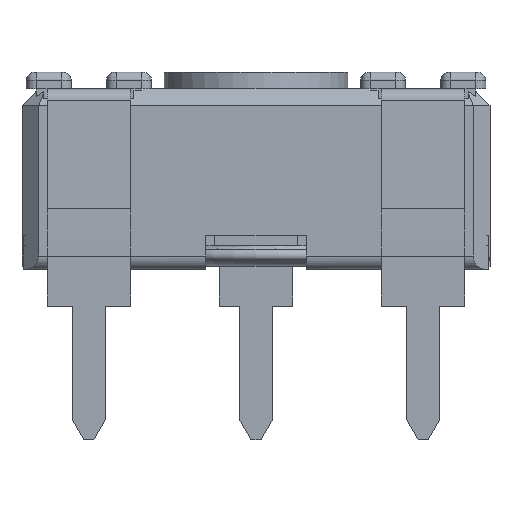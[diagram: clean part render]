
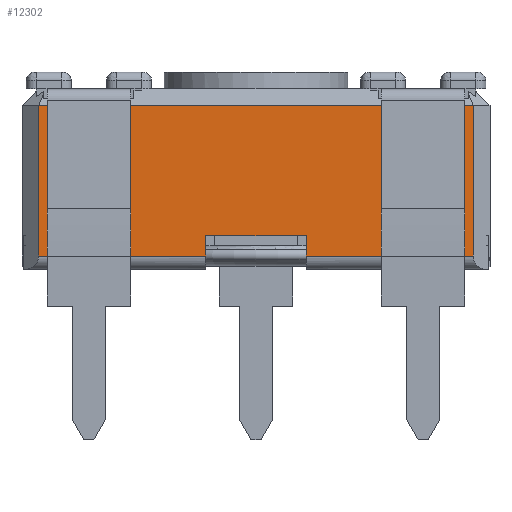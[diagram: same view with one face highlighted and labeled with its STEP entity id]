
A CAD part, front view. The second image highlights one B-rep face of the part: STEP entity #12302.
In plain terms, the highlighted planar face has unit normal (0, -1, 0).
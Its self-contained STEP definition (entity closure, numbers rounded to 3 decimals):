
#1203=FACE_OUTER_BOUND('',#1820,.T.);
#1820=EDGE_LOOP('',(#10355,#10356,#10357,#10358,#10359,#10360,#10361,#10362));
#2741=LINE('',#19239,#4024);
#2749=LINE('',#19256,#4032);
#2766=LINE('',#19299,#4049);
#2767=LINE('',#19304,#4050);
#3043=LINE('',#20093,#4326);
#3055=LINE('',#20115,#4338);
#3078=LINE('',#20168,#4361);
#3083=LINE('',#20177,#4366);
#4024=VECTOR('',#15525,10.);
#4032=VECTOR('',#15537,10.);
#4049=VECTOR('',#15574,10.);
#4050=VECTOR('',#15581,10.);
#4326=VECTOR('',#16307,10.);
#4338=VECTOR('',#16329,10.);
#4361=VECTOR('',#16376,10.);
#4366=VECTOR('',#16385,10.);
#5233=VERTEX_POINT('',#19236);
#5234=VERTEX_POINT('',#19238);
#5241=VERTEX_POINT('',#19254);
#5256=VERTEX_POINT('',#19296);
#5257=VERTEX_POINT('',#19298);
#5258=VERTEX_POINT('',#19302);
#5514=VERTEX_POINT('',#20092);
#5527=VERTEX_POINT('',#20166);
#6735=EDGE_CURVE('',#5233,#5234,#2741,.T.);
#6744=EDGE_CURVE('',#5233,#5241,#2749,.T.);
#6765=EDGE_CURVE('',#5256,#5257,#2766,.T.);
#6768=EDGE_CURVE('',#5257,#5258,#2767,.T.);
#7152=EDGE_CURVE('',#5514,#5234,#3043,.T.);
#7164=EDGE_CURVE('',#5256,#5514,#3055,.T.);
#7188=EDGE_CURVE('',#5527,#5241,#3078,.T.);
#7193=EDGE_CURVE('',#5258,#5527,#3083,.T.);
#10355=ORIENTED_EDGE('',*,*,#6735,.F.);
#10356=ORIENTED_EDGE('',*,*,#6744,.T.);
#10357=ORIENTED_EDGE('',*,*,#7188,.F.);
#10358=ORIENTED_EDGE('',*,*,#7193,.F.);
#10359=ORIENTED_EDGE('',*,*,#6768,.F.);
#10360=ORIENTED_EDGE('',*,*,#6765,.F.);
#10361=ORIENTED_EDGE('',*,*,#7164,.T.);
#10362=ORIENTED_EDGE('',*,*,#7152,.T.);
#11129=PLANE('',#13297);
#12302=ADVANCED_FACE('',(#1203),#11129,.T.);
#13297=AXIS2_PLACEMENT_3D('',#20176,#16383,#16384);
#15525=DIRECTION('',(-1.,0.,0.));
#15537=DIRECTION('',(0.,0.,1.));
#15574=DIRECTION('',(0.,0.,-1.));
#15581=DIRECTION('',(-1.,0.,0.));
#16307=DIRECTION('',(0.,0.,-1.));
#16329=DIRECTION('',(1.,0.,0.));
#16376=DIRECTION('',(1.,0.,0.));
#16383=DIRECTION('center_axis',(0.,-1.,0.));
#16384=DIRECTION('ref_axis',(1.,0.,0.));
#16385=DIRECTION('',(0.,0.,1.));
#19236=CARTESIAN_POINT('',(-3.655,0.3,-0.6));
#19238=CARTESIAN_POINT('',(-8.655,0.3,-0.6));
#19239=CARTESIAN_POINT('',(-11.325,0.3,-0.6));
#19254=CARTESIAN_POINT('',(-3.655,0.3,3.9));
#19256=CARTESIAN_POINT('',(-3.655,0.3,0.));
#19296=CARTESIAN_POINT('',(-11.655,0.3,0.));
#19298=CARTESIAN_POINT('',(-11.655,0.3,-0.6));
#19299=CARTESIAN_POINT('',(-11.655,0.3,-0.3));
#19302=CARTESIAN_POINT('',(-16.655,0.3,-0.6));
#19304=CARTESIAN_POINT('',(-15.484,0.3,-0.6));
#20092=CARTESIAN_POINT('',(-8.655,0.3,0.));
#20093=CARTESIAN_POINT('',(-8.655,0.3,0.));
#20115=CARTESIAN_POINT('',(-16.655,0.3,0.));
#20166=CARTESIAN_POINT('',(-16.655,0.3,3.9));
#20168=CARTESIAN_POINT('',(-13.405,0.3,3.9));
#20176=CARTESIAN_POINT('Origin',(-16.655,0.3,0.));
#20177=CARTESIAN_POINT('',(-16.655,0.3,0.));
